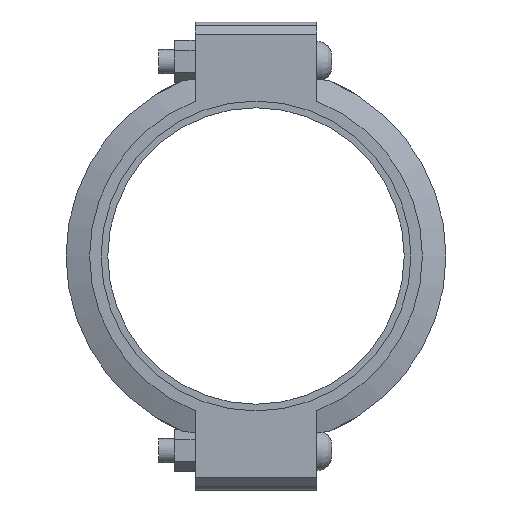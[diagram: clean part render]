
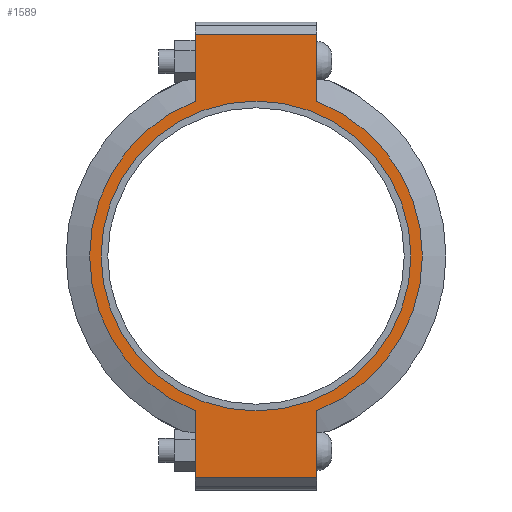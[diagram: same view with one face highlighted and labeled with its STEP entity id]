
A CAD part, left-side view. The second image highlights one B-rep face of the part: STEP entity #1589.
In plain terms, the highlighted planar face has unit normal (-1, 0, 0) as drawn and (0, 0, 1) by its records, which use the part's own axes.
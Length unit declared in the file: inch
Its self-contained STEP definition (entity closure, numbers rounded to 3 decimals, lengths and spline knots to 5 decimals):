
#160=LINE('',#2736,#249);
#171=LINE('',#2787,#260);
#177=LINE('',#2813,#266);
#179=LINE('',#2816,#268);
#180=LINE('',#2821,#269);
#181=LINE('',#2822,#270);
#249=VECTOR('',#2232,0.3937);
#260=VECTOR('',#2263,0.3937);
#266=VECTOR('',#2281,0.3937);
#268=VECTOR('',#2285,0.3937);
#269=VECTOR('',#2290,0.3937);
#270=VECTOR('',#2291,0.3937);
#332=FACE_BOUND('',#509,.T.);
#400=FACE_OUTER_BOUND('',#508,.T.);
#508=EDGE_LOOP('',(#1284,#1285,#1286,#1287,#1288,#1289,#1290,#1291));
#509=EDGE_LOOP('',(#1292));
#591=CIRCLE('',#1808,6.375);
#615=CIRCLE('',#1860,6.84375);
#616=CIRCLE('',#1861,6.84375);
#687=VERTEX_POINT('',#2562);
#728=VERTEX_POINT('',#2733);
#729=VERTEX_POINT('',#2735);
#746=VERTEX_POINT('',#2782);
#747=VERTEX_POINT('',#2786);
#754=VERTEX_POINT('',#2808);
#755=VERTEX_POINT('',#2812);
#756=VERTEX_POINT('',#2818);
#757=VERTEX_POINT('',#2820);
#851=EDGE_CURVE('',#687,#687,#591,.T.);
#908=EDGE_CURVE('',#729,#728,#160,.T.);
#929=EDGE_CURVE('',#747,#746,#171,.T.);
#940=EDGE_CURVE('',#755,#754,#177,.T.);
#942=EDGE_CURVE('',#755,#728,#179,.T.);
#943=EDGE_CURVE('',#754,#756,#615,.T.);
#944=EDGE_CURVE('',#756,#757,#180,.T.);
#945=EDGE_CURVE('',#747,#757,#181,.T.);
#946=EDGE_CURVE('',#746,#729,#616,.T.);
#1284=ORIENTED_EDGE('',*,*,#942,.F.);
#1285=ORIENTED_EDGE('',*,*,#940,.T.);
#1286=ORIENTED_EDGE('',*,*,#943,.T.);
#1287=ORIENTED_EDGE('',*,*,#944,.T.);
#1288=ORIENTED_EDGE('',*,*,#945,.F.);
#1289=ORIENTED_EDGE('',*,*,#929,.T.);
#1290=ORIENTED_EDGE('',*,*,#946,.T.);
#1291=ORIENTED_EDGE('',*,*,#908,.T.);
#1292=ORIENTED_EDGE('',*,*,#851,.T.);
#1429=PLANE('',#1859);
#1589=ADVANCED_FACE('',(#400,#332),#1429,.T.);
#1808=AXIS2_PLACEMENT_3D('',#2564,#2122,#2123);
#1859=AXIS2_PLACEMENT_3D('',#2817,#2286,#2287);
#1860=AXIS2_PLACEMENT_3D('',#2819,#2288,#2289);
#1861=AXIS2_PLACEMENT_3D('',#2823,#2292,#2293);
#2122=DIRECTION('center_axis',(0.,0.,-1.));
#2123=DIRECTION('ref_axis',(-1.,0.,0.));
#2232=DIRECTION('',(-1.,0.,0.));
#2263=DIRECTION('',(-1.,0.,0.));
#2281=DIRECTION('',(1.,0.,0.));
#2285=DIRECTION('',(0.,1.,0.));
#2286=DIRECTION('center_axis',(0.,0.,1.));
#2287=DIRECTION('ref_axis',(1.,0.,0.));
#2288=DIRECTION('center_axis',(0.,0.,1.));
#2289=DIRECTION('ref_axis',(-1.,0.,0.));
#2290=DIRECTION('',(1.,0.,0.));
#2291=DIRECTION('',(0.,-1.,0.));
#2292=DIRECTION('center_axis',(0.,0.,1.));
#2293=DIRECTION('ref_axis',(-1.,0.,0.));
#2562=CARTESIAN_POINT('',(6.375,0.,1.315));
#2564=CARTESIAN_POINT('Origin',(0.,0.,1.315));
#2733=CARTESIAN_POINT('',(-9.125,2.5,1.315));
#2735=CARTESIAN_POINT('',(-6.37079,2.5,1.315));
#2736=CARTESIAN_POINT('',(9.625,2.5,1.315));
#2782=CARTESIAN_POINT('',(6.37079,2.5,1.315));
#2786=CARTESIAN_POINT('',(9.125,2.5,1.315));
#2787=CARTESIAN_POINT('',(9.625,2.5,1.315));
#2808=CARTESIAN_POINT('',(-6.37079,-2.5,1.315));
#2812=CARTESIAN_POINT('',(-9.125,-2.5,1.315));
#2813=CARTESIAN_POINT('',(-9.625,-2.5,1.315));
#2816=CARTESIAN_POINT('',(-9.125,1.25,1.315));
#2817=CARTESIAN_POINT('Origin',(0.,0.,
1.315));
#2818=CARTESIAN_POINT('',(6.37079,-2.5,1.315));
#2819=CARTESIAN_POINT('Origin',(0.,0.,1.315));
#2820=CARTESIAN_POINT('',(9.125,-2.5,1.315));
#2821=CARTESIAN_POINT('',(-9.625,-2.5,1.315));
#2822=CARTESIAN_POINT('',(9.125,-1.25,1.315));
#2823=CARTESIAN_POINT('Origin',(0.,0.,1.315));
